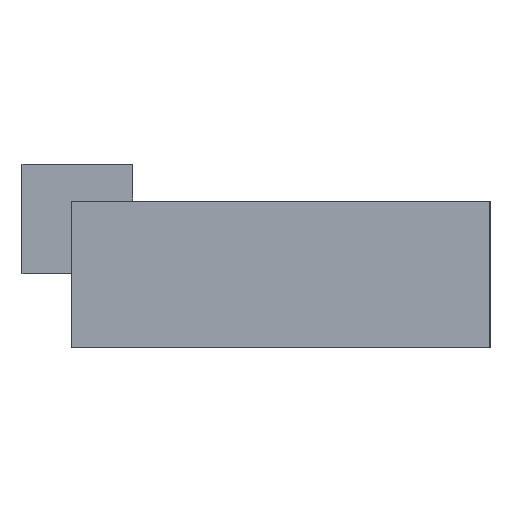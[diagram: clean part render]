
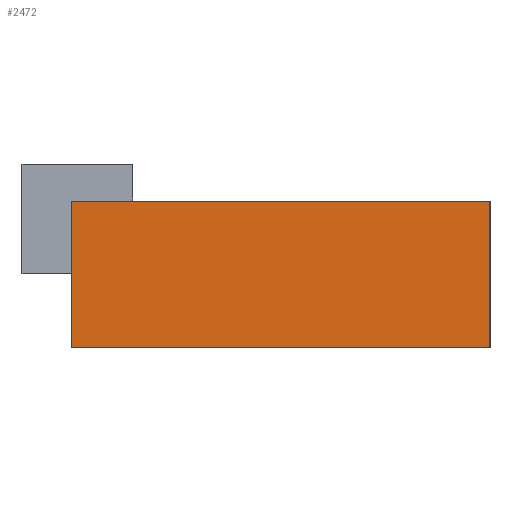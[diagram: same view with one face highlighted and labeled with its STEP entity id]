
A CAD part, left-side view. The second image highlights one B-rep face of the part: STEP entity #2472.
In plain terms, the highlighted planar face has unit normal (-1, 0, 0).
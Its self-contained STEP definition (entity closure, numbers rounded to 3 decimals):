
#31 = PLANE('',#32);
#32 = AXIS2_PLACEMENT_3D('',#33,#34,#35);
#33 = CARTESIAN_POINT('',(-35.,-3.4,13.284));
#34 = DIRECTION('',(0.,0.,1.));
#35 = DIRECTION('',(1.,0.,-0.));
#61 = EDGE_CURVE('',#62,#64,#66,.T.);
#62 = VERTEX_POINT('',#63);
#63 = CARTESIAN_POINT('',(-18.5,3.4,13.284));
#64 = VERTEX_POINT('',#65);
#65 = CARTESIAN_POINT('',(-18.5,-3.4,13.284));
#66 = SURFACE_CURVE('',#67,(#71,#78),.PCURVE_S1.);
#67 = LINE('',#68,#69);
#68 = CARTESIAN_POINT('',(-18.5,3.4,13.284));
#69 = VECTOR('',#70,1.);
#70 = DIRECTION('',(0.,-1.,0.));
#71 = PCURVE('',#31,#72);
#72 = DEFINITIONAL_REPRESENTATION('',(#73),#77);
#73 = LINE('',#74,#75);
#74 = CARTESIAN_POINT('',(16.5,6.8));
#75 = VECTOR('',#76,1.);
#76 = DIRECTION('',(0.,-1.));
#77 = ( GEOMETRIC_REPRESENTATION_CONTEXT(2) 
PARAMETRIC_REPRESENTATION_CONTEXT() REPRESENTATION_CONTEXT('2D SPACE',''
  ) );
#78 = PCURVE('',#79,#84);
#79 = PLANE('',#80);
#80 = AXIS2_PLACEMENT_3D('',#81,#82,#83);
#81 = CARTESIAN_POINT('',(-18.5,1.,12.8));
#82 = DIRECTION('',(1.,0.,-0.));
#83 = DIRECTION('',(0.,0.,1.));
#84 = DEFINITIONAL_REPRESENTATION('',(#85),#89);
#85 = LINE('',#86,#87);
#86 = CARTESIAN_POINT('',(0.484,-2.4));
#87 = VECTOR('',#88,1.);
#88 = DIRECTION('',(0.,1.));
#89 = ( GEOMETRIC_REPRESENTATION_CONTEXT(2) 
PARAMETRIC_REPRESENTATION_CONTEXT() REPRESENTATION_CONTEXT('2D SPACE',''
  ) );
#107 = PLANE('',#108);
#108 = AXIS2_PLACEMENT_3D('',#109,#110,#111);
#109 = CARTESIAN_POINT('',(-21.4,-3.4,10.9));
#110 = DIRECTION('',(0.,1.,0.));
#111 = DIRECTION('',(0.,-0.,1.));
#303 = PLANE('',#304);
#304 = AXIS2_PLACEMENT_3D('',#305,#306,#307);
#305 = CARTESIAN_POINT('',(-18.5,3.4,12.8));
#306 = DIRECTION('',(-0.,1.,0.));
#307 = DIRECTION('',(0.,0.,1.));
#399 = VERTEX_POINT('',#400);
#400 = CARTESIAN_POINT('',(-18.5,3.4,10.9));
#414 = PLANE('',#415);
#415 = AXIS2_PLACEMENT_3D('',#416,#417,#418);
#416 = CARTESIAN_POINT('',(-21.4,-3.4,10.9));
#417 = DIRECTION('',(0.,0.,1.));
#418 = DIRECTION('',(1.,0.,-0.));
#426 = EDGE_CURVE('',#399,#62,#427,.T.);
#427 = SURFACE_CURVE('',#428,(#432,#439),.PCURVE_S1.);
#428 = LINE('',#429,#430);
#429 = CARTESIAN_POINT('',(-18.5,3.4,10.9));
#430 = VECTOR('',#431,1.);
#431 = DIRECTION('',(0.,0.,1.));
#432 = PCURVE('',#303,#433);
#433 = DEFINITIONAL_REPRESENTATION('',(#434),#438);
#434 = LINE('',#435,#436);
#435 = CARTESIAN_POINT('',(-1.9,0.));
#436 = VECTOR('',#437,1.);
#437 = DIRECTION('',(1.,0.));
#438 = ( GEOMETRIC_REPRESENTATION_CONTEXT(2) 
PARAMETRIC_REPRESENTATION_CONTEXT() REPRESENTATION_CONTEXT('2D SPACE',''
  ) );
#439 = PCURVE('',#79,#440);
#440 = DEFINITIONAL_REPRESENTATION('',(#441),#445);
#441 = LINE('',#442,#443);
#442 = CARTESIAN_POINT('',(-1.9,-2.4));
#443 = VECTOR('',#444,1.);
#444 = DIRECTION('',(1.,0.));
#445 = ( GEOMETRIC_REPRESENTATION_CONTEXT(2) 
PARAMETRIC_REPRESENTATION_CONTEXT() REPRESENTATION_CONTEXT('2D SPACE',''
  ) );
#450 = EDGE_CURVE('',#451,#399,#453,.T.);
#451 = VERTEX_POINT('',#452);
#452 = CARTESIAN_POINT('',(-18.5,-3.4,10.9));
#453 = SURFACE_CURVE('',#454,(#458,#465),.PCURVE_S1.);
#454 = LINE('',#455,#456);
#455 = CARTESIAN_POINT('',(-18.5,-9.45,10.9));
#456 = VECTOR('',#457,1.);
#457 = DIRECTION('',(0.,1.,0.));
#458 = PCURVE('',#414,#459);
#459 = DEFINITIONAL_REPRESENTATION('',(#460),#464);
#460 = LINE('',#461,#462);
#461 = CARTESIAN_POINT('',(2.9,-6.05));
#462 = VECTOR('',#463,1.);
#463 = DIRECTION('',(0.,1.));
#464 = ( GEOMETRIC_REPRESENTATION_CONTEXT(2) 
PARAMETRIC_REPRESENTATION_CONTEXT() REPRESENTATION_CONTEXT('2D SPACE',''
  ) );
#465 = PCURVE('',#79,#466);
#466 = DEFINITIONAL_REPRESENTATION('',(#467),#471);
#467 = LINE('',#468,#469);
#468 = CARTESIAN_POINT('',(-1.9,10.45));
#469 = VECTOR('',#470,1.);
#470 = DIRECTION('',(0.,-1.));
#471 = ( GEOMETRIC_REPRESENTATION_CONTEXT(2) 
PARAMETRIC_REPRESENTATION_CONTEXT() REPRESENTATION_CONTEXT('2D SPACE',''
  ) );
#2450 = EDGE_CURVE('',#64,#451,#2451,.T.);
#2451 = SURFACE_CURVE('',#2452,(#2456,#2463),.PCURVE_S1.);
#2452 = LINE('',#2453,#2454);
#2453 = CARTESIAN_POINT('',(-18.5,-3.4,5.45));
#2454 = VECTOR('',#2455,1.);
#2455 = DIRECTION('',(0.,0.,-1.));
#2456 = PCURVE('',#107,#2457);
#2457 = DEFINITIONAL_REPRESENTATION('',(#2458),#2462);
#2458 = LINE('',#2459,#2460);
#2459 = CARTESIAN_POINT('',(-5.45,2.9));
#2460 = VECTOR('',#2461,1.);
#2461 = DIRECTION('',(-1.,0.));
#2462 = ( GEOMETRIC_REPRESENTATION_CONTEXT(2) 
PARAMETRIC_REPRESENTATION_CONTEXT() REPRESENTATION_CONTEXT('2D SPACE',''
  ) );
#2463 = PCURVE('',#79,#2464);
#2464 = DEFINITIONAL_REPRESENTATION('',(#2465),#2469);
#2465 = LINE('',#2466,#2467);
#2466 = CARTESIAN_POINT('',(-7.35,4.4));
#2467 = VECTOR('',#2468,1.);
#2468 = DIRECTION('',(-1.,0.));
#2469 = ( GEOMETRIC_REPRESENTATION_CONTEXT(2) 
PARAMETRIC_REPRESENTATION_CONTEXT() REPRESENTATION_CONTEXT('2D SPACE',''
  ) );
#2472 = ADVANCED_FACE('',(#2473),#79,.F.);
#2473 = FACE_BOUND('',#2474,.F.);
#2474 = EDGE_LOOP('',(#2475,#2476,#2477,#2478));
#2475 = ORIENTED_EDGE('',*,*,#61,.T.);
#2476 = ORIENTED_EDGE('',*,*,#2450,.T.);
#2477 = ORIENTED_EDGE('',*,*,#450,.T.);
#2478 = ORIENTED_EDGE('',*,*,#426,.T.);
